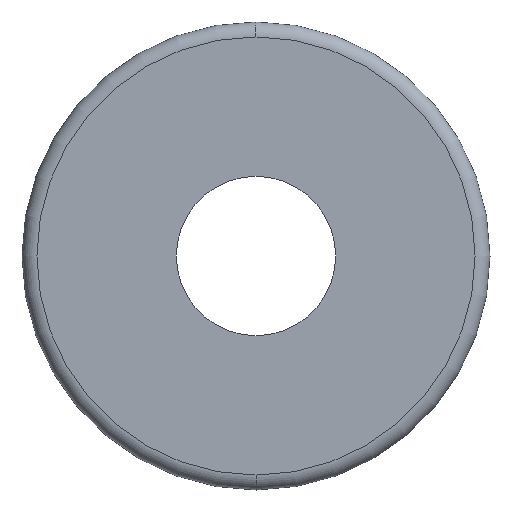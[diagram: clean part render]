
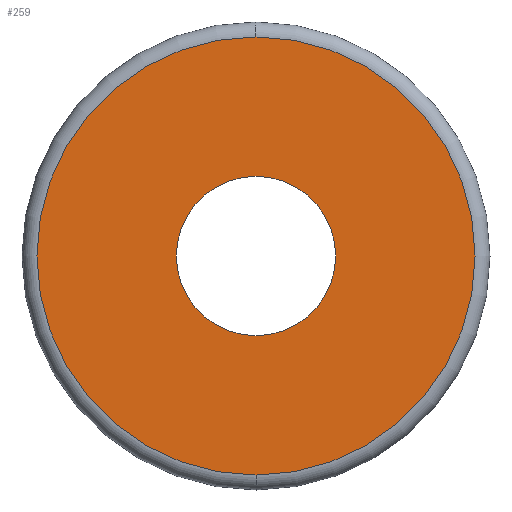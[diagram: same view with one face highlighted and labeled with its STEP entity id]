
A CAD part, left-side view. The second image highlights one B-rep face of the part: STEP entity #259.
In plain terms, the highlighted planar face has unit normal (-1, 0, 0).
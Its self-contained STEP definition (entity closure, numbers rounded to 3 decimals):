
#230 = EDGE_LOOP ( 'NONE', ( #264, #271 ) ) ;
#240 = ORIENTED_EDGE ( 'NONE', *, *, #241, .F. ) ;
#241 = EDGE_CURVE ( 'NONE', #243, #262, #511, .T. ) ;
#243 = VERTEX_POINT ( 'NONE', #571 ) ;
#251 = ORIENTED_EDGE ( 'NONE', *, *, #267, .F. ) ;
#259 = ADVANCED_FACE ( 'NONE', ( #556, #554 ), #574, .F. ) ;
#262 = VERTEX_POINT ( 'NONE', #569 ) ;
#264 = ORIENTED_EDGE ( 'NONE', *, *, #270, .T. ) ;
#267 = EDGE_CURVE ( 'NONE', #262, #243, #599, .T. ) ;
#270 = EDGE_CURVE ( 'NONE', #1037, #290, #593, .T. ) ;
#271 = ORIENTED_EDGE ( 'NONE', *, *, #542, .T. ) ;
#280 = EDGE_LOOP ( 'NONE', ( #240, #251 ) ) ;
#290 = VERTEX_POINT ( 'NONE', #615 ) ;
#506 = DIRECTION ( 'NONE',  ( 0., 0., 1. ) ) ;
#507 = DIRECTION ( 'NONE',  ( -1., 0., 0. ) ) ;
#508 = CARTESIAN_POINT ( 'NONE',  ( 0., 0., 0. ) ) ;
#511 = CIRCLE ( 'NONE', #515, 16. ) ;
#515 = AXIS2_PLACEMENT_3D ( 'NONE', #508, #507, #506 ) ;
#542 = EDGE_CURVE ( 'NONE', #290, #1037, #614, .T. ) ;
#543 = DIRECTION ( 'NONE',  ( 0., 0., -1. ) ) ;
#547 = AXIS2_PLACEMENT_3D ( 'NONE', #552, #551, #543 ) ;
#551 = DIRECTION ( 'NONE',  ( 1., 0., 0. ) ) ;
#552 = CARTESIAN_POINT ( 'NONE',  ( 0., 47., 0. ) ) ;
#553 = CARTESIAN_POINT ( 'NONE',  ( 0., 0., 0. ) ) ;
#554 = FACE_BOUND ( 'NONE', #280, .T. ) ;
#556 = FACE_OUTER_BOUND ( 'NONE', #230, .T. ) ;
#569 = CARTESIAN_POINT ( 'NONE',  ( 0., 0., -16. ) ) ;
#571 = CARTESIAN_POINT ( 'NONE',  ( 0., 0., 16. ) ) ;
#574 = PLANE ( 'NONE',  #547 ) ;
#580 = DIRECTION ( 'NONE',  ( 0., 0., -1. ) ) ;
#581 = DIRECTION ( 'NONE',  ( -1., 0., 0. ) ) ;
#589 = AXIS2_PLACEMENT_3D ( 'NONE', #602, #581, #580 ) ;
#590 = DIRECTION ( 'NONE',  ( 0., 0., 1. ) ) ;
#591 = DIRECTION ( 'NONE',  ( -1., 0., 0. ) ) ;
#593 = CIRCLE ( 'NONE', #589, 44. ) ;
#599 = CIRCLE ( 'NONE', #601, 16. ) ;
#601 = AXIS2_PLACEMENT_3D ( 'NONE', #553, #591, #590 ) ;
#602 = CARTESIAN_POINT ( 'NONE',  ( 0., 0., 0. ) ) ;
#614 = CIRCLE ( 'NONE', #627, 44. ) ;
#615 = CARTESIAN_POINT ( 'NONE',  ( 0., 0., 44. ) ) ;
#627 = AXIS2_PLACEMENT_3D ( 'NONE', #666, #665, #664 ) ;
#650 = CARTESIAN_POINT ( 'NONE',  ( 0., 0., -44. ) ) ;
#664 = DIRECTION ( 'NONE',  ( 0., 0., -1. ) ) ;
#665 = DIRECTION ( 'NONE',  ( -1., 0., 0. ) ) ;
#666 = CARTESIAN_POINT ( 'NONE',  ( 0., 0., 0. ) ) ;
#1037 = VERTEX_POINT ( 'NONE', #650 ) ;
